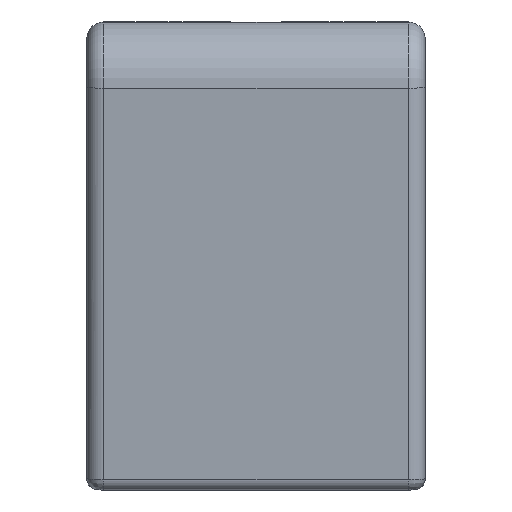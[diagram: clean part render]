
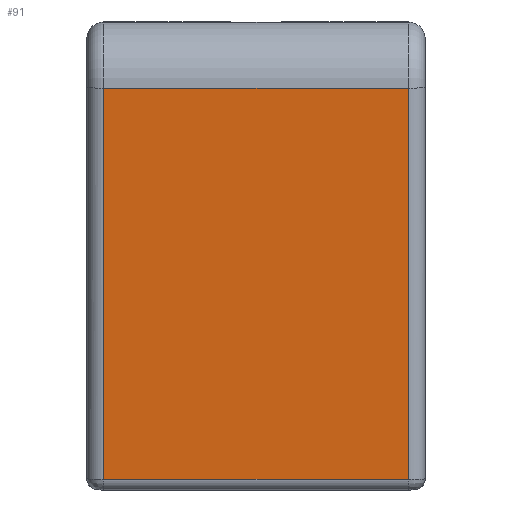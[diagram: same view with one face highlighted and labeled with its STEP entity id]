
A CAD part, left-side view. The second image highlights one B-rep face of the part: STEP entity #91.
In plain terms, the highlighted planar face has unit normal (-0.998, 0, -0.067).
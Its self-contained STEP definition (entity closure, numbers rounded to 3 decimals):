
#91 = ADVANCED_FACE ( 'NONE', ( #946 ), #4274, .T. ) ;
#389 = EDGE_CURVE ( 'NONE', #3581, #3611, #3352, .T. ) ;
#390 = EDGE_CURVE ( 'NONE', #3611, #3604, #3354, .T. ) ;
#391 = EDGE_CURVE ( 'NONE', #3604, #3579, #3356, .T. ) ;
#392 = EDGE_CURVE ( 'NONE', #3581, #3579, #3358, .T. ) ;
#524 = AXIS2_PLACEMENT_3D ( 'NONE', #4275, #4276, #4277 ) ;
#946 = FACE_OUTER_BOUND ( 'NONE', #1596, .T. ) ;
#1428 = ORIENTED_EDGE ( 'NONE', *, *, #389, .T. ) ;
#1429 = ORIENTED_EDGE ( 'NONE', *, *, #390, .T. ) ;
#1430 = ORIENTED_EDGE ( 'NONE', *, *, #391, .T. ) ;
#1431 = ORIENTED_EDGE ( 'NONE', *, *, #392, .F. ) ;
#1596 = EDGE_LOOP ( 'NONE', ( #1428, #1429, #1430, #1431 ) ) ;
#1859 = CARTESIAN_POINT ( 'NONE',  ( -120.388, -13.5, 28.632 ) ) ;
#1861 = CARTESIAN_POINT ( 'NONE',  ( -120.388, 13.5, 28.632 ) ) ;
#1884 = CARTESIAN_POINT ( 'NONE',  ( -118.063, -13.5, -6.067 ) ) ;
#1891 = CARTESIAN_POINT ( 'NONE',  ( -118.063, 13.5, -6.067 ) ) ;
#3051 = CARTESIAN_POINT ( 'NONE',  ( -118., 13.5, -7. ) ) ;
#3052 = DIRECTION ( 'NONE',  ( 0.067, 0., -0.998 ) ) ;
#3053 = CARTESIAN_POINT ( 'NONE',  ( -118.063, 15., -6.067 ) ) ;
#3054 = DIRECTION ( 'NONE',  ( 0., -1., 0. ) ) ;
#3055 = CARTESIAN_POINT ( 'NONE',  ( -120.388, -13.5, 28.632 ) ) ;
#3056 = DIRECTION ( 'NONE',  ( -0.067, 0., 0.998 ) ) ;
#3057 = CARTESIAN_POINT ( 'NONE',  ( -120.388, 15., 28.632 ) ) ;
#3058 = DIRECTION ( 'NONE',  ( 0., -1., 0. ) ) ;
#3352 = LINE ( 'NONE', #3051, #3353 ) ;
#3353 = VECTOR ( 'NONE', #3052, 1000. ) ;
#3354 = LINE ( 'NONE', #3053, #3355 ) ;
#3355 = VECTOR ( 'NONE', #3054, 1000. ) ;
#3356 = LINE ( 'NONE', #3055, #3357 ) ;
#3357 = VECTOR ( 'NONE', #3056, 1000. ) ;
#3358 = LINE ( 'NONE', #3057, #3359 ) ;
#3359 = VECTOR ( 'NONE', #3058, 1000. ) ;
#3579 = VERTEX_POINT ( 'NONE', #1859 ) ;
#3581 = VERTEX_POINT ( 'NONE', #1861 ) ;
#3604 = VERTEX_POINT ( 'NONE', #1884 ) ;
#3611 = VERTEX_POINT ( 'NONE', #1891 ) ;
#4274 = PLANE ( 'NONE',  #524 ) ;
#4275 = CARTESIAN_POINT ( 'NONE',  ( -118., 15., -7. ) ) ;
#4276 = DIRECTION ( 'NONE',  ( -0.998, 0., -0.067 ) ) ;
#4277 = DIRECTION ( 'NONE',  ( -0.067, 0., 0.998 ) ) ;
